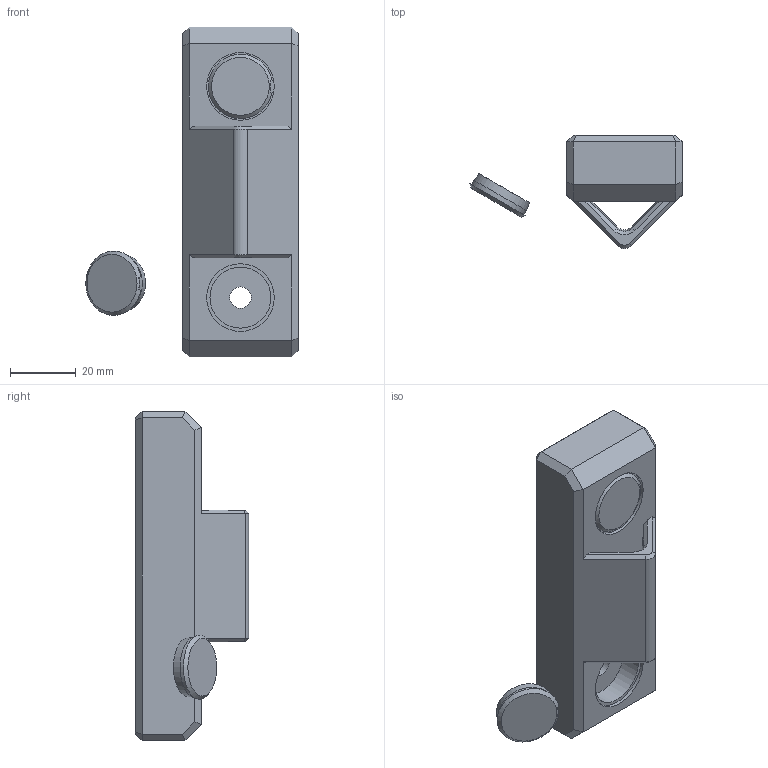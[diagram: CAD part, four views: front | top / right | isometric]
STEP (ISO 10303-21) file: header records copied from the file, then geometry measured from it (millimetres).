
FILE_DESCRIPTION(/* description */ (''),/* implementation_level */ '2;1');
FILE_NAME(/* name */ 'Modular Clamp - Wall Mount v6.step',/* time_stamp */ '2023-07-09T21:05:32+02:00',/* author */ (''),/* organization */ (''),/* preprocessor_version */ 'ST-DEVELOPER v19.2',/* originating_system */ 'Autodesk Translation Framework v12.6.0.85',/* authorisation */ '');
FILE_SCHEMA (('AUTOMOTIVE_DESIGN { 1 0 10303 214 3 1 1 }'));
Length unit declared in the file: millimetre
Products named in the file (1): Modular Clamp - Wall Mount
Bounding box: 64.36 x 34.25 x 100 mm (x, y, z)
Volume: 69572.5 mm3; surface area: 17379.3 mm2
Topology: 3 solids, 3 shells, 83 faces, 195 edges, 118 vertices
Faces by surface type: plane 62, cylinder 12, cone 9
Full cylindrical faces by diameter (mm): 6.5 x2, 16.5 x2, 18.3 x2, 18.5 x2, 20.5 x2
Entity records: 2389 total; most frequent: DIRECTION 406, CARTESIAN_POINT 405, ORIENTED_EDGE 390, EDGE_CURVE 195, LINE 144, VECTOR 144, AXIS2_PLACEMENT_3D 131, VERTEX_POINT 118
